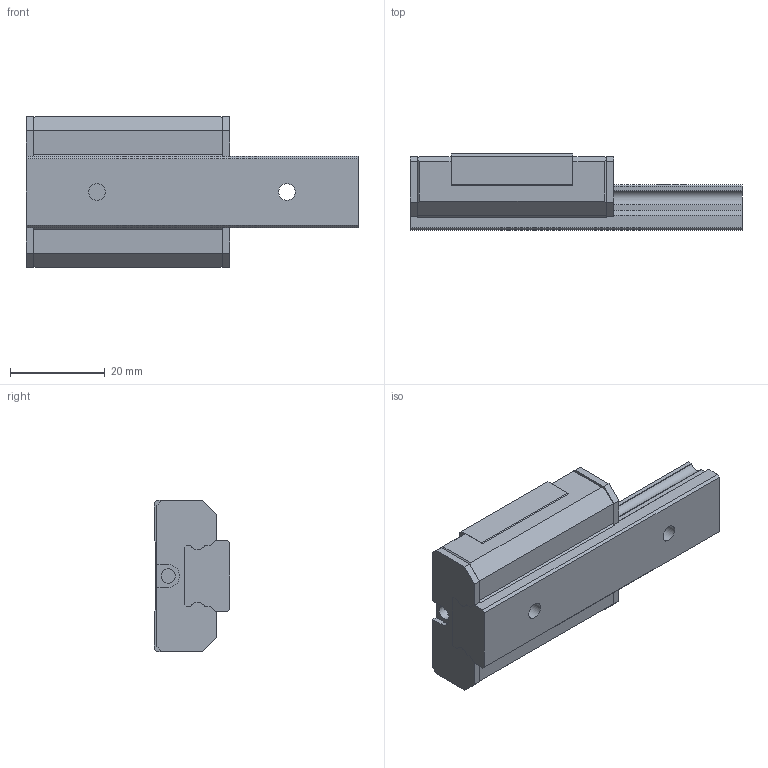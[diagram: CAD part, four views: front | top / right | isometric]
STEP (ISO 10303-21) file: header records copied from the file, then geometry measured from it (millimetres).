
FILE_DESCRIPTION(/* description */ ('STEP AP203'),/* implementation_level */ '2;1');
FILE_NAME(/* name */ 'SRS15MSS-70LM_G15_0_Without_grease_nipple_0_0_0_0_1',/* time_stamp */ '2024-05-16T23:51:33+02:00',/* author */ ('License CC BY-ND 4.0'),/* organization */ ('CADENAS'),/* preprocessor_version */ 'ST-DEVELOPER v19.3',/* originating_system */ 'PARTsolutions',/* authorisation */ ' ');
FILE_SCHEMA (('CONFIG_CONTROL_DESIGN'));
Length unit declared in the file: millimetre
Products named in the file (3): SRS15MSS-70LM_G15_0_Without_grease_nipple_0_0_0_0_1; SRS15M7015 Track; SRS15MSS1 Slider
Assembly tree (2 placements, depth 2):
  SRS15MSS-70LM_G15_0_Without_grease_nipple_0_0_0_0_1
    SRS15M7015 Track
    SRS15MSS1 Slider
Bounding box: 70 x 16 x 32 mm (x, y, z)
Volume: 21692.5 mm3; surface area: 9007.9 mm2
Topology: 2 solids, 2 shells, 134 faces, 358 edges, 232 vertices
Faces by surface type: plane 100, cylinder 26, cone 8
Full cylindrical faces by diameter (mm): 2.459 x4, 3 x2, 3.5 x2, 6 x2
Entity records: 4055 total; most frequent: CARTESIAN_POINT 697, ORIENTED_EDGE 664, DIRECTION 662, EDGE_CURVE 332, LINE 276, VECTOR 276, VERTEX_POINT 228, AXIS2_PLACEMENT_3D 193
